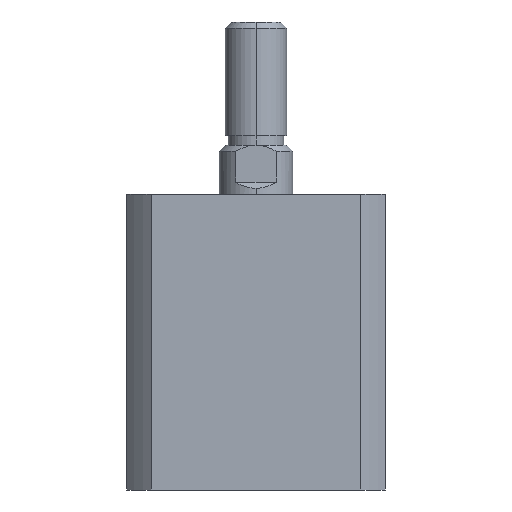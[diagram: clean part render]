
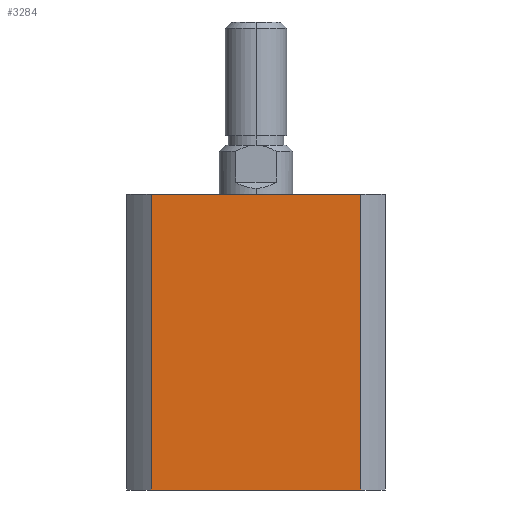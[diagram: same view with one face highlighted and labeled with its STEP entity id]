
A CAD part, left-side view. The second image highlights one B-rep face of the part: STEP entity #3284.
In plain terms, the highlighted planar face has unit normal (-1, 0, 0).
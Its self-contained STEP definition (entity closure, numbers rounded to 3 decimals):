
#559 = VECTOR ( 'NONE', #1616, 1000. ) ;
#569 = LINE ( 'NONE', #1661, #559 ) ;
#570 = VECTOR ( 'NONE', #1676, 1000. ) ;
#571 = LINE ( 'NONE', #1677, #570 ) ;
#615 = VECTOR ( 'NONE', #1736, 1000. ) ;
#621 = LINE ( 'NONE', #1746, #615 ) ;
#713 = VECTOR ( 'NONE', #2844, 1000. ) ;
#737 = LINE ( 'NONE', #2840, #713 ) ;
#1011 = AXIS2_PLACEMENT_3D ( 'NONE', #1399, #1357, #1356 ) ;
#1356 = DIRECTION ( 'NONE',  ( 0., 1., 0. ) ) ;
#1357 = DIRECTION ( 'NONE',  ( 1., 0., 0. ) ) ;
#1370 = PLANE ( 'NONE',  #1011 ) ;
#1399 = CARTESIAN_POINT ( 'NONE',  ( -21., 21., 48. ) ) ;
#1616 = DIRECTION ( 'NONE',  ( 0., 0., 1. ) ) ;
#1661 = CARTESIAN_POINT ( 'NONE',  ( -21., 16.971, 48. ) ) ;
#1676 = DIRECTION ( 'NONE',  ( 0., 0., -1. ) ) ;
#1677 = CARTESIAN_POINT ( 'NONE',  ( -21., -16.971, 48. ) ) ;
#1736 = DIRECTION ( 'NONE',  ( 0., -1., 0. ) ) ;
#1746 = CARTESIAN_POINT ( 'NONE',  ( -21., 21., 48. ) ) ;
#1955 = VERTEX_POINT ( 'NONE', #4504 ) ;
#2163 = ORIENTED_EDGE ( 'NONE', *, *, #4154, .T. ) ;
#2386 = ORIENTED_EDGE ( 'NONE', *, *, #4251, .F. ) ;
#2399 = ORIENTED_EDGE ( 'NONE', *, *, #4232, .F. ) ;
#2444 = ORIENTED_EDGE ( 'NONE', *, *, #4257, .F. ) ;
#2584 = CARTESIAN_POINT ( 'NONE',  ( -21., 16.971, 48. ) ) ;
#2648 = CARTESIAN_POINT ( 'NONE',  ( -21., 16.971, 0. ) ) ;
#2840 = CARTESIAN_POINT ( 'NONE',  ( -21., 21., 0. ) ) ;
#2844 = DIRECTION ( 'NONE',  ( 0., -1., 0. ) ) ;
#3012 = CARTESIAN_POINT ( 'NONE',  ( -21., -16.971, 48. ) ) ;
#3284 = ADVANCED_FACE ( 'NONE', ( #4621 ), #1370, .F. ) ;
#3982 = VERTEX_POINT ( 'NONE', #2584 ) ;
#3988 = VERTEX_POINT ( 'NONE', #2648 ) ;
#4027 = VERTEX_POINT ( 'NONE', #3012 ) ;
#4154 = EDGE_CURVE ( 'NONE', #3988, #1955, #737, .T. ) ;
#4232 = EDGE_CURVE ( 'NONE', #3982, #4027, #621, .T. ) ;
#4251 = EDGE_CURVE ( 'NONE', #4027, #1955, #571, .T. ) ;
#4257 = EDGE_CURVE ( 'NONE', #3988, #3982, #569, .T. ) ;
#4504 = CARTESIAN_POINT ( 'NONE',  ( -21., -16.971, 0. ) ) ;
#4621 = FACE_OUTER_BOUND ( 'NONE', #4995, .T. ) ;
#4995 = EDGE_LOOP ( 'NONE', ( #2386, #2399, #2444, #2163 ) ) ;
